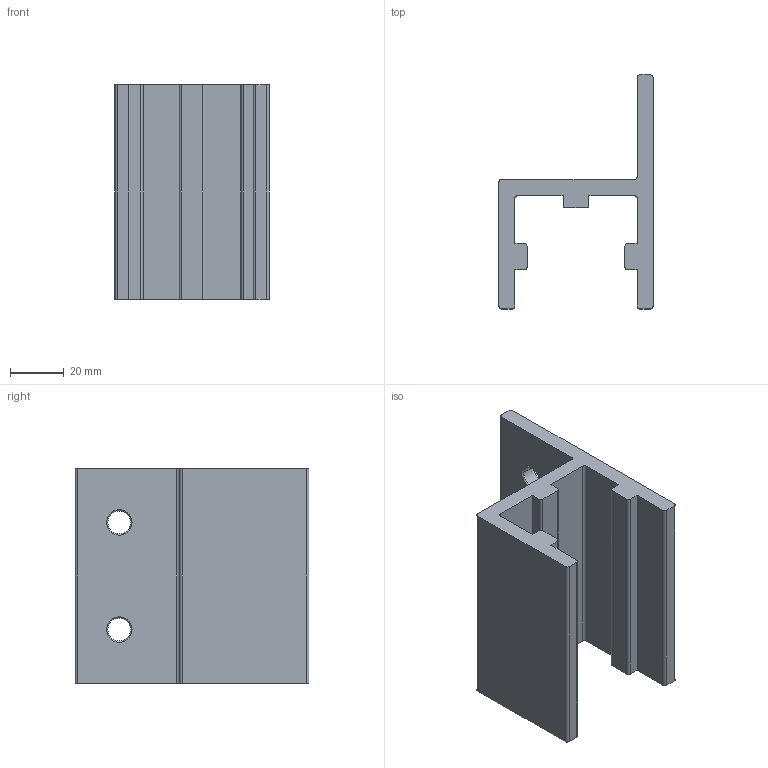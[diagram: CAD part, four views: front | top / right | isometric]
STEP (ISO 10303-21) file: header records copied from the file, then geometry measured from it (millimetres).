
FILE_DESCRIPTION (( 'STEP AP214' ), '1' );
FILE_NAME ('S-2S-SF-4545.STEP', '2023-06-15T11:11:37', ( '' ), ( '' ), 'SwSTEP 2.0', 'SolidWorks 2022', '' );
FILE_SCHEMA (( 'AUTOMOTIVE_DESIGN' ));
Length unit declared in the file: millimetre
Products named in the file (1): S-2S-SF-4545
Bounding box: 57.6 x 87.3 x 80 mm (x, y, z)
Volume: 96585.5 mm3; surface area: 34058.1 mm2
Topology: 1 solids, 1 shells, 52 faces, 150 edges, 100 vertices
Faces by surface type: plane 24, cylinder 20, cone 8
Entity records: 1772 total; most frequent: DIRECTION 312, CARTESIAN_POINT 303, ORIENTED_EDGE 300, EDGE_CURVE 150, AXIS2_PLACEMENT_3D 109, VERTEX_POINT 100, VECTOR 94, LINE 94
